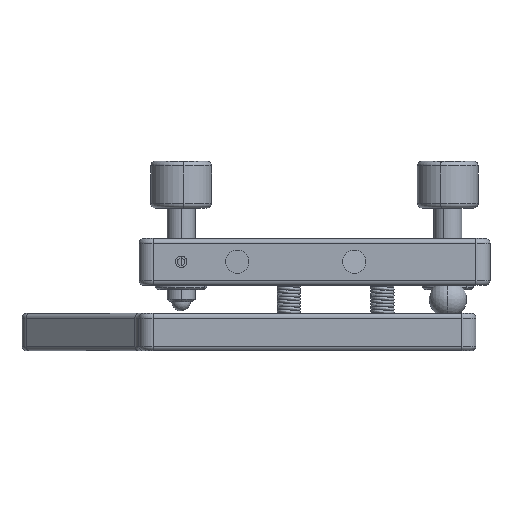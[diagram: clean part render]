
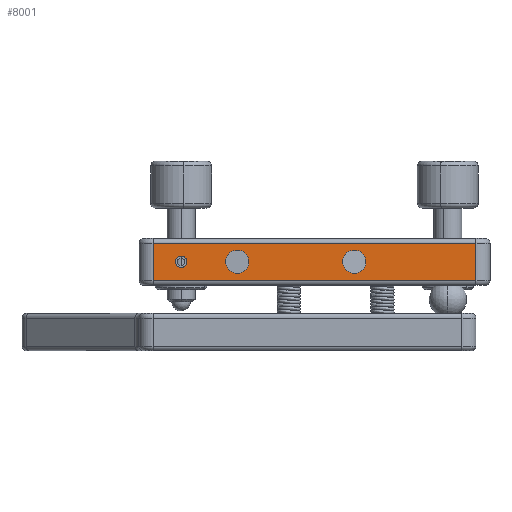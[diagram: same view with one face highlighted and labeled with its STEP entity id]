
A CAD part, left-side view. The second image highlights one B-rep face of the part: STEP entity #8001.
In plain terms, the highlighted planar face has unit normal (-1, 0, 0).
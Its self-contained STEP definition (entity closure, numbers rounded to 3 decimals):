
#566 = AXIS2_PLACEMENT_3D ( 'NONE', #8907, #13441, #4623 ) ;
#936 = DIRECTION ( 'NONE',  ( 0., 0., 1. ) ) ;
#972 = AXIS2_PLACEMENT_3D ( 'NONE', #12199, #12220, #12233 ) ;
#1136 = DIRECTION ( 'NONE',  ( -1., 0., 0. ) ) ;
#1491 = CARTESIAN_POINT ( 'NONE',  ( -37.5, 34.5, 4. ) ) ;
#2260 = CIRCLE ( 'NONE', #11853, 2.5 ) ;
#2281 = CARTESIAN_POINT ( 'NONE',  ( -37.5, 28.5, -1.25 ) ) ;
#3492 = FACE_BOUND ( 'NONE', #16000, .T. ) ;
#3625 = CARTESIAN_POINT ( 'NONE',  ( -37.5, -37.5, -4. ) ) ;
#3764 = VECTOR ( 'NONE', #11690, 1000. ) ;
#4208 = EDGE_CURVE ( 'NONE', #14236, #13636, #11332, .T. ) ;
#4290 = AXIS2_PLACEMENT_3D ( 'NONE', #6320, #6801, #4490 ) ;
#4407 = CIRCLE ( 'NONE', #6893, 2.5 ) ;
#4490 = DIRECTION ( 'NONE',  ( 0., 0., 1. ) ) ;
#4623 = DIRECTION ( 'NONE',  ( 0., 0., -1. ) ) ;
#4781 = VERTEX_POINT ( 'NONE', #9637 ) ;
#4797 = ORIENTED_EDGE ( 'NONE', *, *, #11766, .F. ) ;
#4813 = ORIENTED_EDGE ( 'NONE', *, *, #5509, .F. ) ;
#4948 = CARTESIAN_POINT ( 'NONE',  ( -37.5, 34.5, 5. ) ) ;
#5027 = EDGE_CURVE ( 'NONE', #18677, #11155, #2260, .T. ) ;
#5039 = ORIENTED_EDGE ( 'NONE', *, *, #12292, .T. ) ;
#5134 = LINE ( 'NONE', #17632, #8464 ) ;
#5237 = ORIENTED_EDGE ( 'NONE', *, *, #10949, .T. ) ;
#5259 = CARTESIAN_POINT ( 'NONE',  ( -37.5, 34.5, -4. ) ) ;
#5261 = CARTESIAN_POINT ( 'NONE',  ( -37.5, 16.5, -2.5 ) ) ;
#5509 = EDGE_CURVE ( 'NONE', #4781, #10212, #18743, .T. ) ;
#5723 = DIRECTION ( 'NONE',  ( -1., 0., 0. ) ) ;
#5784 = CARTESIAN_POINT ( 'NONE',  ( -37.5, 16.5, 0. ) ) ;
#6046 = FACE_BOUND ( 'NONE', #16286, .T. ) ;
#6203 = VERTEX_POINT ( 'NONE', #5259 ) ;
#6248 = FACE_BOUND ( 'NONE', #13650, .T. ) ;
#6320 = CARTESIAN_POINT ( 'NONE',  ( -37.5, -8.5, 0. ) ) ;
#6332 = DIRECTION ( 'NONE',  ( -1., 0., 0. ) ) ;
#6411 = AXIS2_PLACEMENT_3D ( 'NONE', #9827, #1136, #11320 ) ;
#6431 = ORIENTED_EDGE ( 'NONE', *, *, #12239, .F. ) ;
#6618 = LINE ( 'NONE', #1491, #3764 ) ;
#6801 = DIRECTION ( 'NONE',  ( -1., 0., 0. ) ) ;
#6893 = AXIS2_PLACEMENT_3D ( 'NONE', #18539, #9636, #936 ) ;
#7573 = CIRCLE ( 'NONE', #6411, 2.5 ) ;
#7629 = CARTESIAN_POINT ( 'NONE',  ( -37.5, 28.5, 1.25 ) ) ;
#7647 = CARTESIAN_POINT ( 'NONE',  ( -37.5, -34.5, -4. ) ) ;
#7976 = CIRCLE ( 'NONE', #17420, 1.25 ) ;
#8001 = ADVANCED_FACE ( 'NONE', ( #6046, #6248, #3492, #18451 ), #11888, .F. ) ;
#8464 = VECTOR ( 'NONE', #8704, 1000. ) ;
#8704 = DIRECTION ( 'NONE',  ( 0., 0., 1. ) ) ;
#8776 = CARTESIAN_POINT ( 'NONE',  ( -37.5, -8.5, 2.5 ) ) ;
#8869 = ORIENTED_EDGE ( 'NONE', *, *, #4208, .F. ) ;
#8907 = CARTESIAN_POINT ( 'NONE',  ( -37.5, -37.5, 5. ) ) ;
#9636 = DIRECTION ( 'NONE',  ( -1., 0., 0. ) ) ;
#9637 = CARTESIAN_POINT ( 'NONE',  ( -37.5, -8.5, -2.5 ) ) ;
#9827 = CARTESIAN_POINT ( 'NONE',  ( -37.5, 16.5, 0. ) ) ;
#10123 = EDGE_CURVE ( 'NONE', #15423, #18928, #6618, .T. ) ;
#10206 = ORIENTED_EDGE ( 'NONE', *, *, #10123, .T. ) ;
#10212 = VERTEX_POINT ( 'NONE', #8776 ) ;
#10345 = VECTOR ( 'NONE', #18220, 1000. ) ;
#10527 = LINE ( 'NONE', #4948, #10345 ) ;
#10541 = ORIENTED_EDGE ( 'NONE', *, *, #12386, .T. ) ;
#10543 = LINE ( 'NONE', #3625, #14551 ) ;
#10949 = EDGE_CURVE ( 'NONE', #12620, #15423, #5134, .T. ) ;
#11155 = VERTEX_POINT ( 'NONE', #14869 ) ;
#11320 = DIRECTION ( 'NONE',  ( 0., 0., 1. ) ) ;
#11332 = CIRCLE ( 'NONE', #972, 1.25 ) ;
#11658 = DIRECTION ( 'NONE',  ( 0., 0., 1. ) ) ;
#11690 = DIRECTION ( 'NONE',  ( 0., 1., 0. ) ) ;
#11766 = EDGE_CURVE ( 'NONE', #10212, #4781, #4407, .T. ) ;
#11846 = CARTESIAN_POINT ( 'NONE',  ( -37.5, 34.5, 4. ) ) ;
#11853 = AXIS2_PLACEMENT_3D ( 'NONE', #5784, #5723, #11658 ) ;
#11888 = PLANE ( 'NONE',  #566 ) ;
#11898 = EDGE_CURVE ( 'NONE', #11155, #18677, #7573, .T. ) ;
#11952 = CARTESIAN_POINT ( 'NONE',  ( -37.5, -34.5, 4. ) ) ;
#12199 = CARTESIAN_POINT ( 'NONE',  ( -37.5, 28.5, 0. ) ) ;
#12220 = DIRECTION ( 'NONE',  ( -1., 0., 0. ) ) ;
#12233 = DIRECTION ( 'NONE',  ( 0., 0., 1. ) ) ;
#12234 = ORIENTED_EDGE ( 'NONE', *, *, #11898, .F. ) ;
#12239 = EDGE_CURVE ( 'NONE', #13636, #14236, #7976, .T. ) ;
#12292 = EDGE_CURVE ( 'NONE', #18928, #6203, #10527, .T. ) ;
#12386 = EDGE_CURVE ( 'NONE', #6203, #12620, #10543, .T. ) ;
#12620 = VERTEX_POINT ( 'NONE', #7647 ) ;
#13441 = DIRECTION ( 'NONE',  ( 1., 0., 0. ) ) ;
#13636 = VERTEX_POINT ( 'NONE', #7629 ) ;
#13650 = EDGE_LOOP ( 'NONE', ( #12234, #14142 ) ) ;
#13901 = DIRECTION ( 'NONE',  ( 0., -1., 0. ) ) ;
#14142 = ORIENTED_EDGE ( 'NONE', *, *, #5027, .F. ) ;
#14236 = VERTEX_POINT ( 'NONE', #2281 ) ;
#14551 = VECTOR ( 'NONE', #13901, 1000. ) ;
#14869 = CARTESIAN_POINT ( 'NONE',  ( -37.5, 16.5, 2.5 ) ) ;
#15223 = CARTESIAN_POINT ( 'NONE',  ( -37.5, 28.5, 0. ) ) ;
#15423 = VERTEX_POINT ( 'NONE', #11952 ) ;
#15960 = EDGE_LOOP ( 'NONE', ( #5039, #10541, #5237, #10206 ) ) ;
#16000 = EDGE_LOOP ( 'NONE', ( #4797, #4813 ) ) ;
#16286 = EDGE_LOOP ( 'NONE', ( #6431, #8869 ) ) ;
#16703 = DIRECTION ( 'NONE',  ( 0., 0., 1. ) ) ;
#17420 = AXIS2_PLACEMENT_3D ( 'NONE', #15223, #6332, #16703 ) ;
#17632 = CARTESIAN_POINT ( 'NONE',  ( -37.5, -34.5, 5. ) ) ;
#18220 = DIRECTION ( 'NONE',  ( 0., 0., -1. ) ) ;
#18451 = FACE_OUTER_BOUND ( 'NONE', #15960, .T. ) ;
#18539 = CARTESIAN_POINT ( 'NONE',  ( -37.5, -8.5, 0. ) ) ;
#18677 = VERTEX_POINT ( 'NONE', #5261 ) ;
#18743 = CIRCLE ( 'NONE', #4290, 2.5 ) ;
#18928 = VERTEX_POINT ( 'NONE', #11846 ) ;
